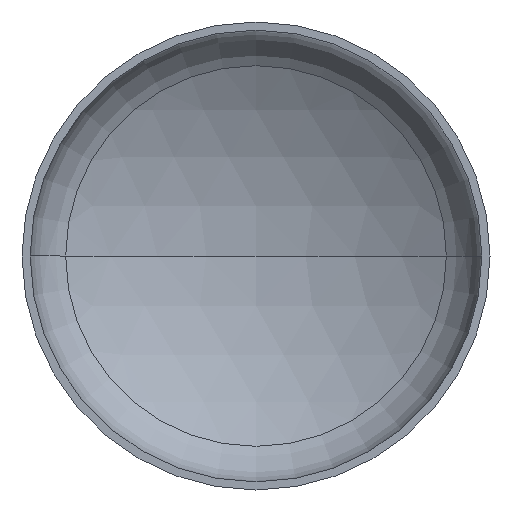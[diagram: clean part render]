
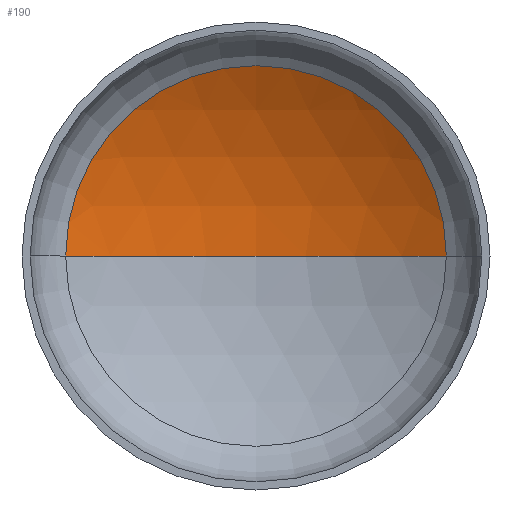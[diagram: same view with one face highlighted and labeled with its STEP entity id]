
A CAD part, front view. The second image highlights one B-rep face of the part: STEP entity #190.
In plain terms, the highlighted spherical face has radius 1920 mm.
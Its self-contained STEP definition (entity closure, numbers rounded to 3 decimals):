
#9 = EDGE_LOOP ( 'NONE', ( #67, #25, #19 ) ) ;
#14 = CARTESIAN_POINT ( 'NONE',  ( 0., -1204.749, 0. ) ) ;
#19 = ORIENTED_EDGE ( 'NONE', *, *, #169, .T. ) ;
#22 = VERTEX_POINT ( 'NONE', #371 ) ;
#25 = ORIENTED_EDGE ( 'NONE', *, *, #174, .T. ) ;
#42 = FACE_OUTER_BOUND ( 'NONE', #9, .T. ) ;
#60 = VERTEX_POINT ( 'NONE', #259 ) ;
#67 = ORIENTED_EDGE ( 'NONE', *, *, #175, .F. ) ;
#98 = AXIS2_PLACEMENT_3D ( 'NONE', #14, #350, #256 ) ;
#105 = VERTEX_POINT ( 'NONE', #232 ) ;
#107 = AXIS2_PLACEMENT_3D ( 'NONE', #215, #217, #258 ) ;
#113 = AXIS2_PLACEMENT_3D ( 'NONE', #242, #191, #203 ) ;
#122 = AXIS2_PLACEMENT_3D ( 'NONE', #311, #267, #211 ) ;
#169 = EDGE_CURVE ( 'NONE', #22, #60, #257, .T. ) ;
#174 = EDGE_CURVE ( 'NONE', #105, #22, #186, .T. ) ;
#175 = EDGE_CURVE ( 'NONE', #105, #60, #367, .T. ) ;
#186 = CIRCLE ( 'NONE', #113, 1920. ) ;
#190 = ADVANCED_FACE ( 'NONE', ( #42 ), #253, .F. ) ;
#191 = DIRECTION ( 'NONE',  ( 0., 0., -1. ) ) ;
#203 = DIRECTION ( 'NONE',  ( -1., 0., 0. ) ) ;
#211 = DIRECTION ( 'NONE',  ( 1., 0., 0. ) ) ;
#215 = CARTESIAN_POINT ( 'NONE',  ( 0., -1204.749, 0. ) ) ;
#217 = DIRECTION ( 'NONE',  ( 0., 0., 1. ) ) ;
#232 = CARTESIAN_POINT ( 'NONE',  ( 0., 715.251, 0. ) ) ;
#242 = CARTESIAN_POINT ( 'NONE',  ( 0., -1204.749, 0. ) ) ;
#253 = SPHERICAL_SURFACE ( 'NONE', #98, 1920. ) ;
#256 = DIRECTION ( 'NONE',  ( -1., 0., 0. ) ) ;
#257 = CIRCLE ( 'NONE', #122, 976.103 ) ;
#258 = DIRECTION ( 'NONE',  ( 1., 0., 0. ) ) ;
#259 = CARTESIAN_POINT ( 'NONE',  ( -976.103, 448.618, 0. ) ) ;
#267 = DIRECTION ( 'NONE',  ( 0., -1., 0. ) ) ;
#311 = CARTESIAN_POINT ( 'NONE',  ( 0., 448.618, 0. ) ) ;
#350 = DIRECTION ( 'NONE',  ( 0., 0., -1. ) ) ;
#367 = CIRCLE ( 'NONE', #107, 1920. ) ;
#371 = CARTESIAN_POINT ( 'NONE',  ( 976.103, 448.618, 0. ) ) ;
